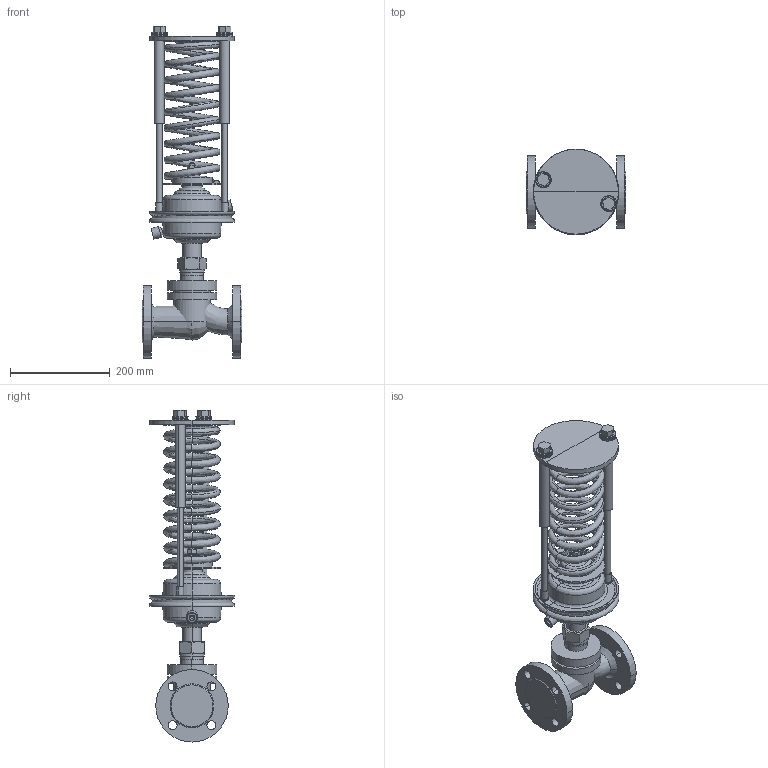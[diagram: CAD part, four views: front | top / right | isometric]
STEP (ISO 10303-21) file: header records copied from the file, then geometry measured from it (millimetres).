
FILE_DESCRIPTION(/* description */ (''),/* implementation_level */ '2;1');
FILE_NAME(/* name */ 'ETM_Регулятор давления_УРРД_НЗ_РД_DN40 0.05—0.3 МПа',/* time_stamp */ '2026-04-24T18:47:07+03:00',/* author */ (''),/* organization */ (''),/* preprocessor_version */ 'ST-DEVELOPER v20',/* originating_system */ '',/* authorisation */ '');
FILE_SCHEMA (('AP242_MANAGED_MODEL_BASED_3D_ENGINEERING_MIM_LF { 1 0 10303 442 1 1 4 }'));
Length unit declared in the file: millimetre
Products named in the file (13): TopLevelAssembly; Выдавливание; Переход; Выдавливание_
1; Переход_1; Переход_2; Переход_3; Объемная геометрия 
присоединена; Выдавливание_
2; Выдавливание_
3; Объемная геометрия 
присоединена_1; Выдавливание_
4; Пружина красная
Assembly tree (12 placements, depth 2):
  TopLevelAssembly
    Выдавливание
    Переход
    Выдавливание_
1
    Переход_1
    Переход_2
    Переход_3
    Объемная геометрия 
присоединена
    Выдавливание_
2
    Выдавливание_
3
    Объемная геометрия 
присоединена_1
    Выдавливание_
4
    Пружина красная
Bounding box: 200 x 171.97 x 665.05 mm (x, y, z)
Volume: 3710262.3 mm3; surface area: 650964 mm2
Topology: 31 solids, 31 shells, 506 faces, 1005 edges, 541 vertices
Faces by surface type: plane 181, bspline 177, cylinder 138, cone 10
Entity records: 16102 total; most frequent: CARTESIAN_POINT 5269, DIRECTION 2281, ORIENTED_EDGE 2006, EDGE_CURVE 1003, AXIS2_PLACEMENT_3D 958, CIRCLE 603, VERTEX_POINT 541, EDGE_LOOP 528
